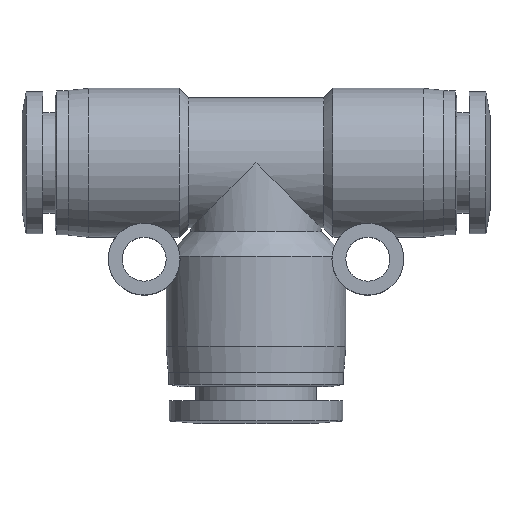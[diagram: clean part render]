
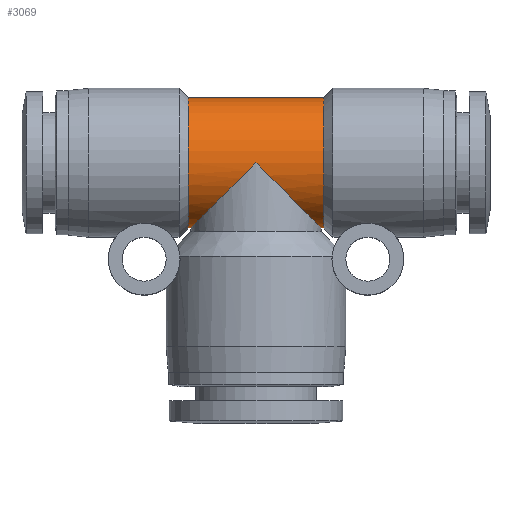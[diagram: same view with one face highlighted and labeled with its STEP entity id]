
A CAD part, top view. The second image highlights one B-rep face of the part: STEP entity #3069.
In plain terms, the highlighted cylindrical face has radius 6.35 mm (diameter 12.7 mm), a partial arc.
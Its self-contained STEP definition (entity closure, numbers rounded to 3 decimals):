
#133 = CARTESIAN_POINT ( 'NONE',  ( 3.72, -3.72, 6.35 ) ) ;
#151 = DIRECTION ( 'NONE',  ( 0., 1., 0. ) ) ;
#182 = CARTESIAN_POINT ( 'NONE',  ( 0., 0., 6.35 ) ) ;
#184 = CIRCLE ( 'NONE', #1097, 6.35 ) ;
#227 = EDGE_CURVE ( 'NONE', #2197, #1311, #2605, .T. ) ;
#239 = ORIENTED_EDGE ( 'NONE', *, *, #370, .F. ) ;
#370 = EDGE_CURVE ( 'NONE', #1800, #2875, #184, .T. ) ;
#431 = EDGE_LOOP ( 'NONE', ( #998, #1354, #2050, #2084, #1324, #239, #1344 ) ) ;
#455 = DIRECTION ( 'NONE',  ( 1., 0., 0. ) ) ;
#519 = CARTESIAN_POINT ( 'NONE',  ( 0., -6.35, 0. ) ) ;
#578 = CARTESIAN_POINT ( 'NONE',  ( 0., 0., 6.35 ) ) ;
#595 = EDGE_CURVE ( 'NONE', #1604, #2197, #1589, .T. ) ;
#617 = CARTESIAN_POINT ( 'NONE',  ( 6.6, 0., 0. ) ) ;
#639 = CARTESIAN_POINT ( 'NONE',  ( 0., 0., 0. ) ) ;
#648 = AXIS2_PLACEMENT_3D ( 'NONE', #2192, #455, #1428 ) ;
#668 = AXIS2_PLACEMENT_3D ( 'NONE', #639, #2438, #151 ) ;
#671 = VERTEX_POINT ( 'NONE', #2545 ) ;
#726 = FACE_OUTER_BOUND ( 'NONE', #431, .T. ) ;
#776 =( BOUNDED_CURVE ( )  B_SPLINE_CURVE ( 3, ( #182, #133, #2096, #1633 ),
 .UNSPECIFIED., .F., .F. ) 
 B_SPLINE_CURVE_WITH_KNOTS ( ( 4, 4 ),
 ( 4.712, 6.283 ),
 .UNSPECIFIED. ) 
 CURVE ( )  GEOMETRIC_REPRESENTATION_ITEM ( )  RATIONAL_B_SPLINE_CURVE ( ( 1., 0.805, 0.805, 1. ) ) 
 REPRESENTATION_ITEM ( '' )  );
#837 = EDGE_CURVE ( 'NONE', #1311, #671, #776, .T. ) ;
#858 = DIRECTION ( 'NONE',  ( 1., 0., 0. ) ) ;
#936 = VECTOR ( 'NONE', #858, 1000. ) ;
#937 = CARTESIAN_POINT ( 'NONE',  ( 6.6, 6.35, 0. ) ) ;
#998 = ORIENTED_EDGE ( 'NONE', *, *, #1998, .T. ) ;
#1066 = EDGE_CURVE ( 'NONE', #671, #2875, #1767, .T. ) ;
#1097 = AXIS2_PLACEMENT_3D ( 'NONE', #617, #1419, #3053 ) ;
#1311 = VERTEX_POINT ( 'NONE', #1560 ) ;
#1324 = ORIENTED_EDGE ( 'NONE', *, *, #1066, .T. ) ;
#1338 = CARTESIAN_POINT ( 'NONE',  ( -6.35, -6.35, 0. ) ) ;
#1344 = ORIENTED_EDGE ( 'NONE', *, *, #2283, .F. ) ;
#1354 = ORIENTED_EDGE ( 'NONE', *, *, #595, .T. ) ;
#1364 = DIRECTION ( 'NONE',  ( 1., 0., 0. ) ) ;
#1419 = DIRECTION ( 'NONE',  ( 1., 0., 0. ) ) ;
#1428 = DIRECTION ( 'NONE',  ( 0., 0., -1. ) ) ;
#1560 = CARTESIAN_POINT ( 'NONE',  ( 0., 0., 6.35 ) ) ;
#1589 = LINE ( 'NONE', #2046, #936 ) ;
#1604 = VERTEX_POINT ( 'NONE', #2495 ) ;
#1633 = CARTESIAN_POINT ( 'NONE',  ( 6.35, -6.35, 0. ) ) ;
#1721 = CIRCLE ( 'NONE', #648, 6.35 ) ;
#1744 = CARTESIAN_POINT ( 'NONE',  ( -6.6, 6.35, 0. ) ) ;
#1767 = LINE ( 'NONE', #519, #1814 ) ;
#1775 = CARTESIAN_POINT ( 'NONE',  ( -6.35, -6.35, 3.72 ) ) ;
#1794 = VECTOR ( 'NONE', #1364, 1000. ) ;
#1800 = VERTEX_POINT ( 'NONE', #937 ) ;
#1814 = VECTOR ( 'NONE', #2484, 1000. ) ;
#1998 = EDGE_CURVE ( 'NONE', #2149, #1604, #1721, .T. ) ;
#2043 = CARTESIAN_POINT ( 'NONE',  ( -6.35, -6.35, 0. ) ) ;
#2046 = CARTESIAN_POINT ( 'NONE',  ( 0., -6.35, 0. ) ) ;
#2050 = ORIENTED_EDGE ( 'NONE', *, *, #227, .T. ) ;
#2084 = ORIENTED_EDGE ( 'NONE', *, *, #837, .T. ) ;
#2096 = CARTESIAN_POINT ( 'NONE',  ( 6.35, -6.35, 3.72 ) ) ;
#2149 = VERTEX_POINT ( 'NONE', #1744 ) ;
#2192 = CARTESIAN_POINT ( 'NONE',  ( -6.6, 0., 0. ) ) ;
#2197 = VERTEX_POINT ( 'NONE', #2043 ) ;
#2283 = EDGE_CURVE ( 'NONE', #2149, #1800, #2366, .T. ) ;
#2315 = CARTESIAN_POINT ( 'NONE',  ( -3.72, -3.72, 6.35 ) ) ;
#2338 = CARTESIAN_POINT ( 'NONE',  ( 0., 6.35, 0. ) ) ;
#2366 = LINE ( 'NONE', #2338, #1794 ) ;
#2438 = DIRECTION ( 'NONE',  ( 1., 0., 0. ) ) ;
#2484 = DIRECTION ( 'NONE',  ( 1., 0., 0. ) ) ;
#2495 = CARTESIAN_POINT ( 'NONE',  ( -6.6, -6.35, 0. ) ) ;
#2545 = CARTESIAN_POINT ( 'NONE',  ( 6.35, -6.35, 0. ) ) ;
#2605 =( BOUNDED_CURVE ( )  B_SPLINE_CURVE ( 3, ( #1338, #1775, #2315, #578 ),
 .UNSPECIFIED., .F., .F. ) 
 B_SPLINE_CURVE_WITH_KNOTS ( ( 4, 4 ),
 ( 3.142, 4.712 ),
 .UNSPECIFIED. ) 
 CURVE ( )  GEOMETRIC_REPRESENTATION_ITEM ( )  RATIONAL_B_SPLINE_CURVE ( ( 1., 0.805, 0.805, 1. ) ) 
 REPRESENTATION_ITEM ( '' )  );
#2875 = VERTEX_POINT ( 'NONE', #2992 ) ;
#2992 = CARTESIAN_POINT ( 'NONE',  ( 6.6, -6.35, 0. ) ) ;
#3053 = DIRECTION ( 'NONE',  ( 0., 0., -1. ) ) ;
#3069 = ADVANCED_FACE ( 'NONE', ( #726 ), #3102, .T. ) ;
#3102 = CYLINDRICAL_SURFACE ( 'NONE', #668, 6.35 ) ;
